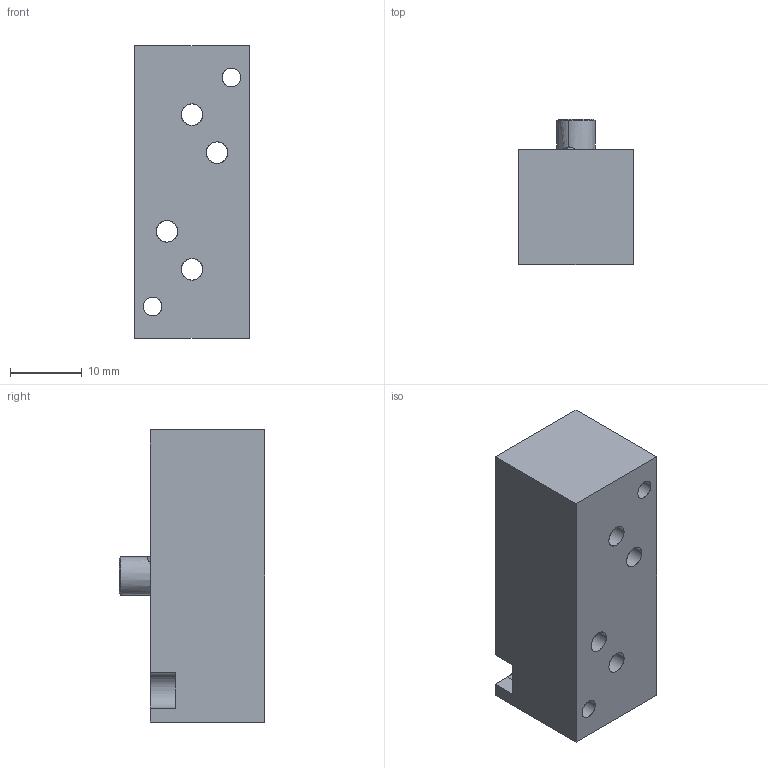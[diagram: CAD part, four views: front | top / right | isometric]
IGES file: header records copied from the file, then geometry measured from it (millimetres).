
Start section: SolidWorks IGES file using analytic representation for surfaces
Global section: file name: C:\Documents and Settings\Administrator\桌面\新資料夾 (2)\SOB52-M5.IGS; native system: SolidWorks 2012; preprocessor: SolidWorks 2012; author: Administrator; date: 150729.160734; units: millimetre
Bounding box: 16 x 20.35 x 40.8 mm (x, y, z)
Surface area: 4312.5 mm2 (no closed solid volume)
Topology: 0 solids, 0 shells, 74 faces, 1553 edges, 1722 vertices
Faces by surface type: revolution 57, bspline 17
